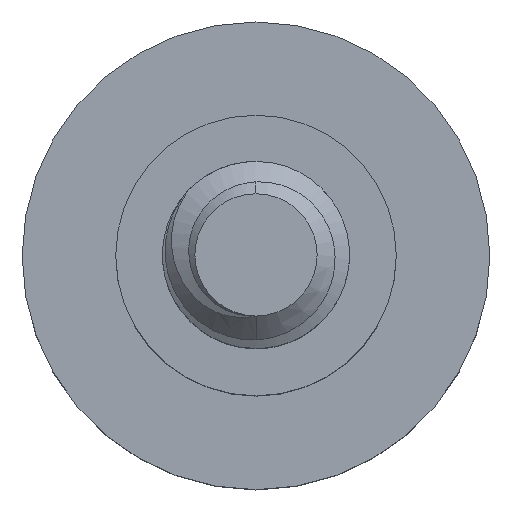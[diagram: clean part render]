
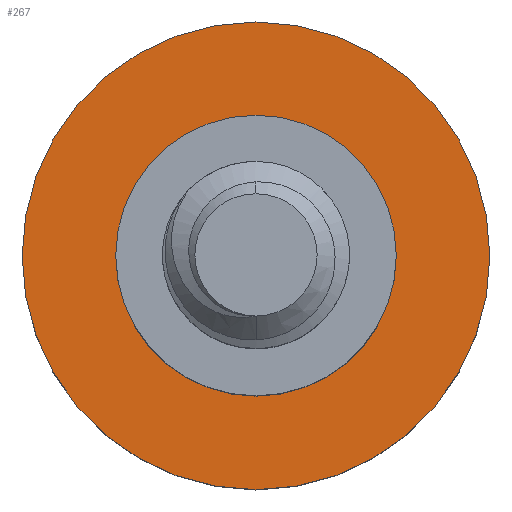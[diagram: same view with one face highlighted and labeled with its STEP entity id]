
A CAD part, top view. The second image highlights one B-rep face of the part: STEP entity #267.
In plain terms, the highlighted planar face has unit normal (0, 0, 1).
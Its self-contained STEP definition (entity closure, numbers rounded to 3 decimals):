
#29 = ORIENTED_EDGE ( 'NONE', *, *, #1609, .F. ) ;
#69 = CIRCLE ( 'NONE', #2122, 1.5 ) ;
#85 = DIRECTION ( 'NONE',  ( -1., 0., 0. ) ) ;
#186 = VERTEX_POINT ( 'NONE', #470 ) ;
#189 = EDGE_CURVE ( 'NONE', #186, #1711, #69, .T. ) ;
#193 = DIRECTION ( 'NONE',  ( 0., 0., -1. ) ) ;
#248 = EDGE_LOOP ( 'NONE', ( #339, #1156 ) ) ;
#267 = ADVANCED_FACE ( 'NONE', ( #1090, #344 ), #2026, .F. ) ;
#296 = DIRECTION ( 'NONE',  ( -1., 0., 0. ) ) ;
#304 = CARTESIAN_POINT ( 'NONE',  ( 0., 0., -2. ) ) ;
#310 = DIRECTION ( 'NONE',  ( 0., 0., -1. ) ) ;
#339 = ORIENTED_EDGE ( 'NONE', *, *, #409, .T. ) ;
#344 = FACE_OUTER_BOUND ( 'NONE', #917, .T. ) ;
#400 = DIRECTION ( 'NONE',  ( 0., 0., -1. ) ) ;
#407 = AXIS2_PLACEMENT_3D ( 'NONE', #782, #400, #2490 ) ;
#409 = EDGE_CURVE ( 'NONE', #1711, #186, #1530, .T. ) ;
#470 = CARTESIAN_POINT ( 'NONE',  ( 1.5, 0., -2. ) ) ;
#501 = CARTESIAN_POINT ( 'NONE',  ( -1.5, 0., -2. ) ) ;
#573 = CARTESIAN_POINT ( 'NONE',  ( 2.5, 0., -2. ) ) ;
#585 = ORIENTED_EDGE ( 'NONE', *, *, #1814, .F. ) ;
#643 = AXIS2_PLACEMENT_3D ( 'NONE', #2019, #310, #296 ) ;
#782 = CARTESIAN_POINT ( 'NONE',  ( 0., 0., -2. ) ) ;
#851 = DIRECTION ( 'NONE',  ( -1., 0., 0. ) ) ;
#917 = EDGE_LOOP ( 'NONE', ( #29, #585 ) ) ;
#1065 = DIRECTION ( 'NONE',  ( 0., 0., -1. ) ) ;
#1082 = AXIS2_PLACEMENT_3D ( 'NONE', #1924, #193, #1310 ) ;
#1090 = FACE_BOUND ( 'NONE', #248, .T. ) ;
#1146 = CARTESIAN_POINT ( 'NONE',  ( -2.5, 0., -2. ) ) ;
#1156 = ORIENTED_EDGE ( 'NONE', *, *, #189, .T. ) ;
#1310 = DIRECTION ( 'NONE',  ( -1., 0., 0. ) ) ;
#1405 = VERTEX_POINT ( 'NONE', #1146 ) ;
#1464 = DIRECTION ( 'NONE',  ( 0., 0., -1. ) ) ;
#1496 = CIRCLE ( 'NONE', #407, 2.5 ) ;
#1530 = CIRCLE ( 'NONE', #1082, 1.5 ) ;
#1607 = AXIS2_PLACEMENT_3D ( 'NONE', #304, #1065, #85 ) ;
#1609 = EDGE_CURVE ( 'NONE', #1833, #1405, #1496, .T. ) ;
#1711 = VERTEX_POINT ( 'NONE', #501 ) ;
#1732 = CIRCLE ( 'NONE', #643, 2.5 ) ;
#1814 = EDGE_CURVE ( 'NONE', #1405, #1833, #1732, .T. ) ;
#1833 = VERTEX_POINT ( 'NONE', #573 ) ;
#1924 = CARTESIAN_POINT ( 'NONE',  ( 0., 0., -2. ) ) ;
#2010 = CARTESIAN_POINT ( 'NONE',  ( 0., 0., -2. ) ) ;
#2019 = CARTESIAN_POINT ( 'NONE',  ( 0., 0., -2. ) ) ;
#2026 = PLANE ( 'NONE',  #1607 ) ;
#2122 = AXIS2_PLACEMENT_3D ( 'NONE', #2010, #1464, #851 ) ;
#2490 = DIRECTION ( 'NONE',  ( -1., 0., 0. ) ) ;
